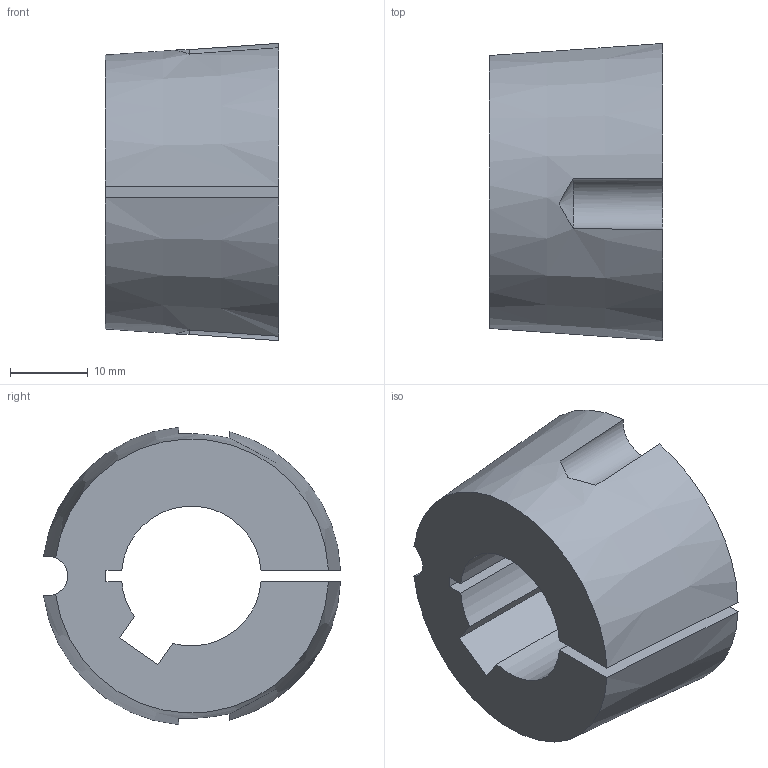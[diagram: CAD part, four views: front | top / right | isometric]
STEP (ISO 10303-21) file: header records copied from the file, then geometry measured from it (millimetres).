
FILE_DESCRIPTION( ( 'STEP AP203' ), '1' );
FILE_NAME( 'D:/export/antriebselemente/spannbuchsen_und_spannsaetze/taper-spannbuchsen_1008_bis_5050/taper-spannbuchsen_62250218Isometric_25.stp', '2018-12-11T11:10:58', ( '' ), ( '' ), ' ', 'PARTsolutions', ' ' );
FILE_SCHEMA( ( 'CONFIG_CONTROL_DESIGN' ) );
Length unit declared in the file: millimetre
Products named in the file (1): _taper-spannbuchsen_62250218
Bounding box: 22.3 x 38.22 x 38.26 mm (x, y, z)
Volume: 16675.5 mm3; surface area: 6097.9 mm2
Topology: 1 solids, 1 shells, 20 faces, 54 edges, 36 vertices
Faces by surface type: plane 10, cylinder 6, cone 4
Entity records: 736 total; most frequent: CARTESIAN_POINT 187, ORIENTED_EDGE 108, DIRECTION 104, EDGE_CURVE 54, AXIS2_PLACEMENT_3D 39, VERTEX_POINT 36, LINE 26, VECTOR 26
